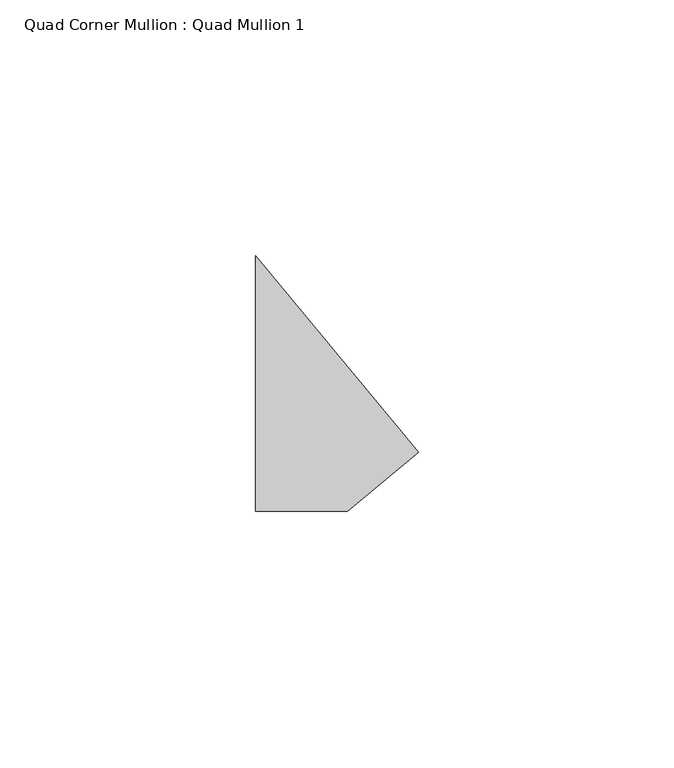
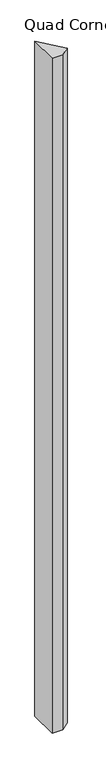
"""IFC4 building model written with IfcOpenShell, lengths in millimetres: member geometry, Quad Corner Mullion : Quad Mullion 1."""

from ifc_helpers import new_model, si_unit, frame, origin, place, context, project, spatial, polyline, outline, extrude, source, transform, mapped, element, save


def quad_corner_mullion_quad_mullion_1_8cacdab8(model_context):
    return source(origin(), model_context, "Body", "SweptSolid", [
        extrude(outline(polyline([(22.8981255, -13.489721), (9.0164696, -25.0), (-9.0164696, -25.0), (-9.0164696, 25.0), (22.8981255, -13.489721)])), frame((0.0, 0.0, -1200.0), z_axis=(0.0, 0.0, 1.0), x_axis=(1.0, 0.0, 0.0)), (0.0, 0.0, 1.0), 1200.0),
    ])


if __name__ == "__main__":
    model = new_model("IFC4")
    model_context = context("Model", 3, world=origin())
    ifc_project = project(units=[si_unit("LENGTHUNIT", "METRE", prefix="MILLI")], contexts=[model_context])
    site = spatial("IfcSite", under=ifc_project)
    building = spatial("IfcBuilding", under=site)
    placement = place(None, origin())
    quad_corner_mullion_quad_mullion_1_shape = quad_corner_mullion_quad_mullion_1_8cacdab8(model_context)
    element("IfcMember", 1, ObjectType="Quad Corner Mullion : Quad Mullion 1", at=placement, inside=building, context=model_context, shape_type="MappedRepresentation", body=[
        mapped(quad_corner_mullion_quad_mullion_1_shape, transform((0.0, 0.0, 0.0), x_axis=(1.0, 0.0, 0.0), y_axis=(0.0, 1.0, 0.0), z_axis=(0.0, 0.0, 1.0))),
    ])
    save(model, "model.ifc")
